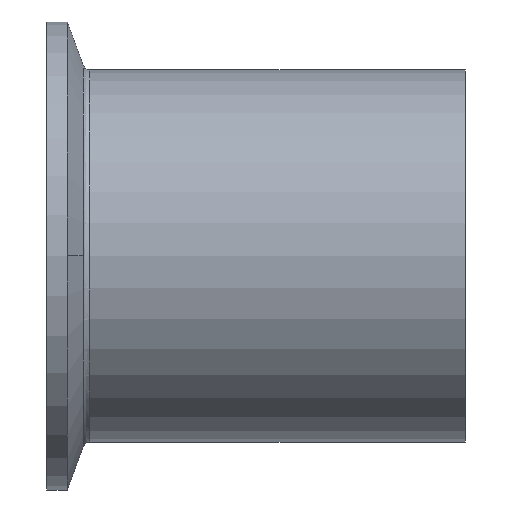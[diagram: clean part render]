
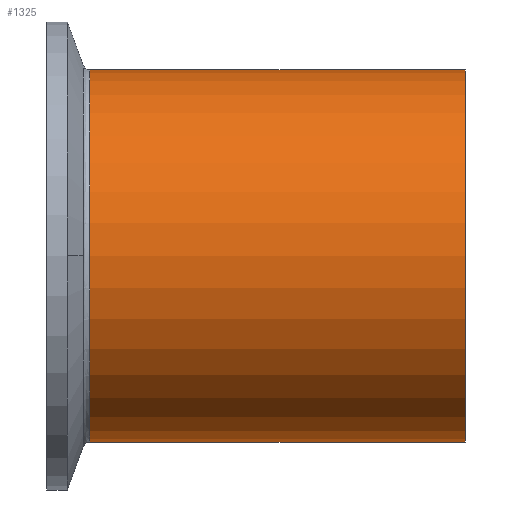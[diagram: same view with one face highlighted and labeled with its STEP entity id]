
A CAD part, top view. The second image highlights one B-rep face of the part: STEP entity #1325.
In plain terms, the highlighted cylindrical face has radius 25.4 mm (diameter 50.8 mm), a partial arc.
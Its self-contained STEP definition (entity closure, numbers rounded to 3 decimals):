
#64 = CARTESIAN_POINT ( 'NONE',  ( 45.786, -25.4, 0. ) ) ;
#83 = DIRECTION ( 'NONE',  ( 0., 1., 0. ) ) ;
#90 = EDGE_CURVE ( 'NONE', #1121, #1481, #774, .T. ) ;
#259 = EDGE_CURVE ( 'NONE', #436, #1121, #971, .T. ) ;
#278 = EDGE_LOOP ( 'NONE', ( #879, #405, #343, #1165 ) ) ;
#307 = VECTOR ( 'NONE', #635, 1000. ) ;
#343 = ORIENTED_EDGE ( 'NONE', *, *, #90, .F. ) ;
#368 = AXIS2_PLACEMENT_3D ( 'NONE', #567, #1365, #439 ) ;
#405 = ORIENTED_EDGE ( 'NONE', *, *, #875, .T. ) ;
#436 = VERTEX_POINT ( 'NONE', #777 ) ;
#439 = DIRECTION ( 'NONE',  ( 0., 1., 0. ) ) ;
#473 = CARTESIAN_POINT ( 'NONE',  ( 0., 0., 0. ) ) ;
#537 = DIRECTION ( 'NONE',  ( 1., 0., 0. ) ) ;
#567 = CARTESIAN_POINT ( 'NONE',  ( 45.786, 0., 0. ) ) ;
#605 = CARTESIAN_POINT ( 'NONE',  ( 0., -25.4, 0. ) ) ;
#624 = VECTOR ( 'NONE', #1083, 1000. ) ;
#635 = DIRECTION ( 'NONE',  ( 1., 0., 0. ) ) ;
#651 = LINE ( 'NONE', #64, #307 ) ;
#679 = AXIS2_PLACEMENT_3D ( 'NONE', #473, #537, #1335 ) ;
#740 = CYLINDRICAL_SURFACE ( 'NONE', #368, 25.4 ) ;
#770 = DIRECTION ( 'NONE',  ( 1., 0., 0. ) ) ;
#774 = CIRCLE ( 'NONE', #679, 25.4 ) ;
#777 = CARTESIAN_POINT ( 'NONE',  ( -51.33, 25.4, 0. ) ) ;
#802 = CARTESIAN_POINT ( 'NONE',  ( -51.33, -25.4, 0. ) ) ;
#842 = AXIS2_PLACEMENT_3D ( 'NONE', #1454, #770, #83 ) ;
#875 = EDGE_CURVE ( 'NONE', #1330, #1481, #651, .T. ) ;
#879 = ORIENTED_EDGE ( 'NONE', *, *, #1104, .T. ) ;
#971 = LINE ( 'NONE', #1310, #624 ) ;
#1083 = DIRECTION ( 'NONE',  ( 1., 0., 0. ) ) ;
#1104 = EDGE_CURVE ( 'NONE', #436, #1330, #1299, .T. ) ;
#1121 = VERTEX_POINT ( 'NONE', #1406 ) ;
#1165 = ORIENTED_EDGE ( 'NONE', *, *, #259, .F. ) ;
#1299 = CIRCLE ( 'NONE', #842, 25.4 ) ;
#1310 = CARTESIAN_POINT ( 'NONE',  ( 45.786, 25.4, 0. ) ) ;
#1325 = ADVANCED_FACE ( 'NONE', ( #1466 ), #740, .T. ) ;
#1330 = VERTEX_POINT ( 'NONE', #802 ) ;
#1335 = DIRECTION ( 'NONE',  ( 0., 1., 0. ) ) ;
#1365 = DIRECTION ( 'NONE',  ( 1., 0., 0. ) ) ;
#1406 = CARTESIAN_POINT ( 'NONE',  ( 0., 25.4, 0. ) ) ;
#1454 = CARTESIAN_POINT ( 'NONE',  ( -51.33, 0., 0. ) ) ;
#1466 = FACE_OUTER_BOUND ( 'NONE', #278, .T. ) ;
#1481 = VERTEX_POINT ( 'NONE', #605 ) ;
